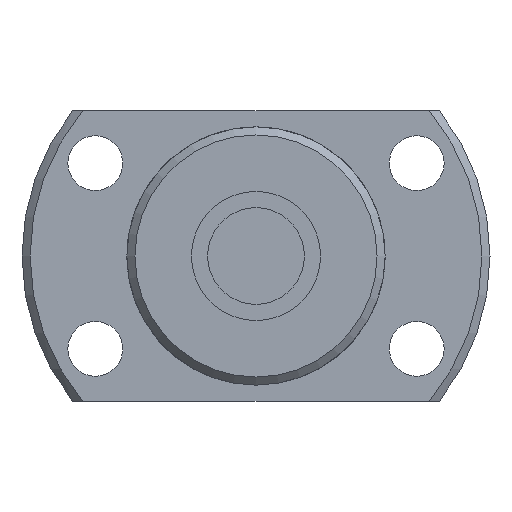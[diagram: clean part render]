
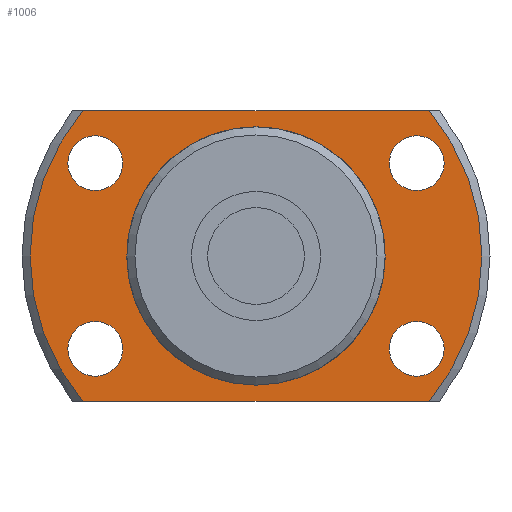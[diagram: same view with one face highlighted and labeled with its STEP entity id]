
A CAD part, left-side view. The second image highlights one B-rep face of the part: STEP entity #1006.
In plain terms, the highlighted planar face has unit normal (-1, 0, 0).
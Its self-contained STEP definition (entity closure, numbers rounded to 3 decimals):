
#111=LINE('',#1763,#155);
#112=LINE('',#1767,#156);
#155=VECTOR('',#1403,1000.);
#156=VECTOR('',#1406,1000.);
#291=ORIENTED_EDGE('',*,*,#510,.T.);
#292=ORIENTED_EDGE('',*,*,#511,.T.);
#293=ORIENTED_EDGE('',*,*,#512,.T.);
#294=ORIENTED_EDGE('',*,*,#513,.T.);
#295=ORIENTED_EDGE('',*,*,#499,.F.);
#296=ORIENTED_EDGE('',*,*,#514,.F.);
#297=ORIENTED_EDGE('',*,*,#515,.F.);
#298=ORIENTED_EDGE('',*,*,#516,.F.);
#299=ORIENTED_EDGE('',*,*,#493,.T.);
#493=EDGE_CURVE('',#613,#613,#687,.T.);
#499=EDGE_CURVE('',#618,#619,#690,.T.);
#510=EDGE_CURVE('',#628,#628,#696,.T.);
#511=EDGE_CURVE('',#629,#629,#697,.T.);
#512=EDGE_CURVE('',#630,#630,#698,.T.);
#513=EDGE_CURVE('',#631,#631,#699,.T.);
#514=EDGE_CURVE('',#632,#618,#111,.T.);
#515=EDGE_CURVE('',#633,#632,#700,.T.);
#516=EDGE_CURVE('',#619,#633,#112,.T.);
#613=VERTEX_POINT('',#1706);
#618=VERTEX_POINT('',#1720);
#619=VERTEX_POINT('',#1722);
#628=VERTEX_POINT('',#1756);
#629=VERTEX_POINT('',#1758);
#630=VERTEX_POINT('',#1760);
#631=VERTEX_POINT('',#1762);
#632=VERTEX_POINT('',#1764);
#633=VERTEX_POINT('',#1766);
#687=CIRCLE('',#1131,7.75);
#690=CIRCLE('',#1135,14.);
#696=CIRCLE('',#1146,1.7);
#697=CIRCLE('',#1147,1.7);
#698=CIRCLE('',#1148,1.7);
#699=CIRCLE('',#1149,1.7);
#700=CIRCLE('',#1150,14.);
#776=EDGE_LOOP('',(#291));
#777=EDGE_LOOP('',(#292));
#778=EDGE_LOOP('',(#293));
#779=EDGE_LOOP('',(#294));
#780=EDGE_LOOP('',(#295,#296,#297,#298));
#781=EDGE_LOOP('',(#299));
#884=FACE_BOUND('',#776,.T.);
#885=FACE_BOUND('',#777,.T.);
#886=FACE_BOUND('',#778,.T.);
#887=FACE_BOUND('',#779,.T.);
#888=FACE_BOUND('',#780,.T.);
#889=FACE_BOUND('',#781,.T.);
#951=PLANE('',#1145);
#1006=ADVANCED_FACE('',(#884,#885,#886,#887,#888,#889),#951,.F.);
#1131=AXIS2_PLACEMENT_3D('',#1705,#1361,#1362);
#1135=AXIS2_PLACEMENT_3D('',#1721,#1371,#1372);
#1145=AXIS2_PLACEMENT_3D('',#1754,#1393,#1394);
#1146=AXIS2_PLACEMENT_3D('',#1755,#1395,#1396);
#1147=AXIS2_PLACEMENT_3D('',#1757,#1397,#1398);
#1148=AXIS2_PLACEMENT_3D('',#1759,#1399,#1400);
#1149=AXIS2_PLACEMENT_3D('',#1761,#1401,#1402);
#1150=AXIS2_PLACEMENT_3D('',#1765,#1404,#1405);
#1361=DIRECTION('',(1.,0.,0.));
#1362=DIRECTION('',(0.,0.,-1.));
#1371=DIRECTION('',(1.,0.,0.));
#1372=DIRECTION('',(0.,0.,-1.));
#1393=DIRECTION('',(1.,0.,0.));
#1394=DIRECTION('',(0.,0.,-1.));
#1395=DIRECTION('',(1.,0.,0.));
#1396=DIRECTION('',(0.,0.,-1.));
#1397=DIRECTION('',(1.,0.,0.));
#1398=DIRECTION('',(0.,0.,-1.));
#1399=DIRECTION('',(1.,0.,0.));
#1400=DIRECTION('',(0.,0.,-1.));
#1401=DIRECTION('',(1.,0.,0.));
#1402=DIRECTION('',(0.,0.,-1.));
#1403=DIRECTION('',(0.,1.,0.));
#1404=DIRECTION('',(1.,0.,0.));
#1405=DIRECTION('',(0.,0.,-1.));
#1406=DIRECTION('',(0.,-1.,0.));
#1705=CARTESIAN_POINT('',(13.,0.,0.));
#1706=CARTESIAN_POINT('',(13.,0.,-7.75));
#1720=CARTESIAN_POINT('',(13.,10.724,-9.));
#1721=CARTESIAN_POINT('',(13.,0.,0.));
#1722=CARTESIAN_POINT('',(13.,10.724,9.));
#1754=CARTESIAN_POINT('',(13.,7.75,0.));
#1755=CARTESIAN_POINT('',(13.,-9.959,-5.75));
#1756=CARTESIAN_POINT('',(13.,-9.959,-7.45));
#1757=CARTESIAN_POINT('',(13.,-9.959,5.75));
#1758=CARTESIAN_POINT('',(13.,-9.959,4.05));
#1759=CARTESIAN_POINT('',(13.,9.959,-5.75));
#1760=CARTESIAN_POINT('',(13.,9.959,-7.45));
#1761=CARTESIAN_POINT('',(13.,9.959,5.75));
#1762=CARTESIAN_POINT('',(13.,9.959,4.05));
#1763=CARTESIAN_POINT('',(13.,-19.5,-9.));
#1764=CARTESIAN_POINT('',(13.,-10.724,-9.));
#1765=CARTESIAN_POINT('',(13.,0.,0.));
#1766=CARTESIAN_POINT('',(13.,-10.724,9.));
#1767=CARTESIAN_POINT('',(13.,19.5,9.));
